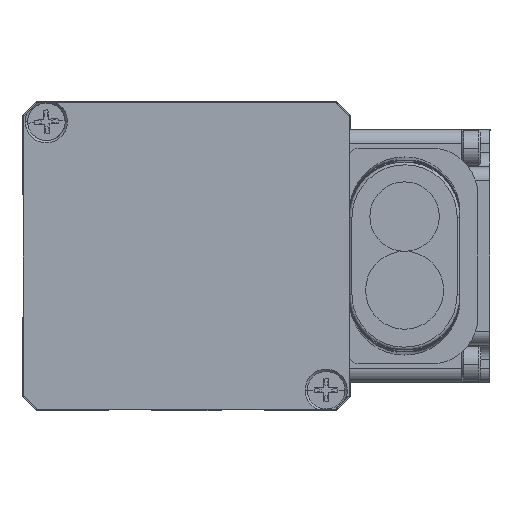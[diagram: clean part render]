
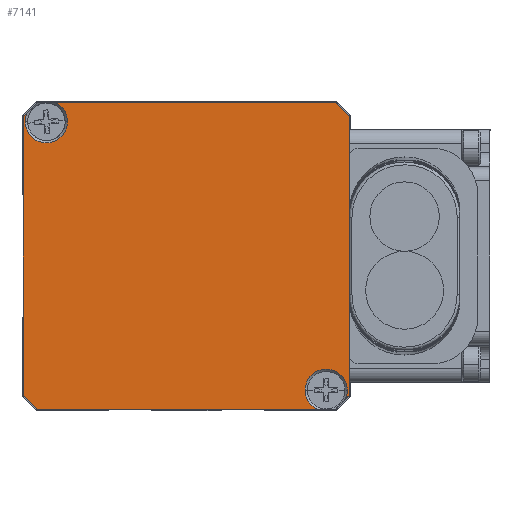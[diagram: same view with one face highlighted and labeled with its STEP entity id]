
A CAD part, front view. The second image highlights one B-rep face of the part: STEP entity #7141.
In plain terms, the highlighted planar face has unit normal (0, -1, 0).
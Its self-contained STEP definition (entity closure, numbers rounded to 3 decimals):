
#1972 = EDGE_CURVE ( 'NONE', #11441, #24627, #32165, .T. ) ;
#2030 = CARTESIAN_POINT ( 'NONE',  ( -17.35, -35.5, -15.35 ) ) ;
#2121 = AXIS2_PLACEMENT_3D ( 'NONE', #2710, #19190, #13918 ) ;
#2215 = ORIENTED_EDGE ( 'NONE', *, *, #25915, .F. ) ;
#2710 = CARTESIAN_POINT ( 'NONE',  ( 14.9, -35.5, -13.3 ) ) ;
#2988 = EDGE_CURVE ( 'NONE', #13305, #24627, #16247, .T. ) ;
#3031 = CIRCLE ( 'NONE', #32266, 2.25 ) ;
#3543 = DIRECTION ( 'NONE',  ( 0., 0., 1. ) ) ;
#3567 = VERTEX_POINT ( 'NONE', #28497 ) ;
#4645 = ORIENTED_EDGE ( 'NONE', *, *, #32113, .F. ) ;
#5013 = VECTOR ( 'NONE', #9031, 1000. ) ;
#5171 = EDGE_CURVE ( 'NONE', #13305, #12235, #21630, .T. ) ;
#5665 = VERTEX_POINT ( 'NONE', #10525 ) ;
#5729 = EDGE_CURVE ( 'NONE', #9697, #5886, #21388, .T. ) ;
#5886 = VERTEX_POINT ( 'NONE', #25568 ) ;
#5929 = DIRECTION ( 'NONE',  ( -0.707, 0., 0.707 ) ) ;
#6125 = CARTESIAN_POINT ( 'NONE',  ( 17.35, -35.5, 15.85 ) ) ;
#6504 = ORIENTED_EDGE ( 'NONE', *, *, #12384, .F. ) ;
#6677 = EDGE_LOOP ( 'NONE', ( #13258, #27582, #34873, #16422, #20968, #18273, #18959, #8523, #4645, #9501, #6504, #36692, #2215, #14037 ) ) ;
#7100 = CARTESIAN_POINT ( 'NONE',  ( 0., -35.5, 1. ) ) ;
#7141 = ADVANCED_FACE ( 'NONE', ( #21301 ), #7294, .F. ) ;
#7199 = DIRECTION ( 'NONE',  ( 0.707, 0., 0.707 ) ) ;
#7294 = PLANE ( 'NONE',  #16660 ) ;
#7473 = DIRECTION ( 'NONE',  ( 0., 1., 0. ) ) ;
#7709 = VECTOR ( 'NONE', #29740, 1000. ) ;
#8083 = VECTOR ( 'NONE', #19031, 1000. ) ;
#8523 = ORIENTED_EDGE ( 'NONE', *, *, #14925, .F. ) ;
#8994 = DIRECTION ( 'NONE',  ( -1., 0., 0. ) ) ;
#9031 = DIRECTION ( 'NONE',  ( -1., 0., 0. ) ) ;
#9190 = CARTESIAN_POINT ( 'NONE',  ( -14.9, -35.5, 15.3 ) ) ;
#9501 = ORIENTED_EDGE ( 'NONE', *, *, #12912, .F. ) ;
#9697 = VERTEX_POINT ( 'NONE', #28368 ) ;
#10399 = CIRCLE ( 'NONE', #36720, 2.25 ) ;
#10525 = CARTESIAN_POINT ( 'NONE',  ( 12.65, -35.5, -13.3 ) ) ;
#11069 = DIRECTION ( 'NONE',  ( 0., -1., 0. ) ) ;
#11441 = VERTEX_POINT ( 'NONE', #25077 ) ;
#11930 = LINE ( 'NONE', #20554, #26278 ) ;
#11971 = CARTESIAN_POINT ( 'NONE',  ( -17.35, -35.5, -13.85 ) ) ;
#12235 = VERTEX_POINT ( 'NONE', #16072 ) ;
#12384 = EDGE_CURVE ( 'NONE', #9697, #33905, #10399, .T. ) ;
#12803 = AXIS2_PLACEMENT_3D ( 'NONE', #9190, #17796, #19891 ) ;
#12912 = EDGE_CURVE ( 'NONE', #33905, #5665, #36147, .T. ) ;
#13030 = DIRECTION ( 'NONE',  ( -0.707, 0., -0.707 ) ) ;
#13258 = ORIENTED_EDGE ( 'NONE', *, *, #33484, .F. ) ;
#13305 = VERTEX_POINT ( 'NONE', #11971 ) ;
#13687 = VERTEX_POINT ( 'NONE', #31154 ) ;
#13918 = DIRECTION ( 'NONE',  ( -1., 0., 0. ) ) ;
#14007 = CARTESIAN_POINT ( 'NONE',  ( 14.9, -35.5, -13.3 ) ) ;
#14037 = ORIENTED_EDGE ( 'NONE', *, *, #27148, .T. ) ;
#14925 = EDGE_CURVE ( 'NONE', #3567, #12235, #17628, .T. ) ;
#14957 = CARTESIAN_POINT ( 'NONE',  ( 14.9, -35.5, -13.3 ) ) ;
#15339 = CARTESIAN_POINT ( 'NONE',  ( -17.35, -35.5, 17.35 ) ) ;
#15506 = AXIS2_PLACEMENT_3D ( 'NONE', #31507, #11069, #22513 ) ;
#16072 = CARTESIAN_POINT ( 'NONE',  ( -15.85, -35.5, -15.35 ) ) ;
#16247 = LINE ( 'NONE', #2030, #29695 ) ;
#16422 = ORIENTED_EDGE ( 'NONE', *, *, #29734, .F. ) ;
#16660 = AXIS2_PLACEMENT_3D ( 'NONE', #7100, #7473, #30293 ) ;
#17628 = LINE ( 'NONE', #20439, #5013 ) ;
#17796 = DIRECTION ( 'NONE',  ( 0., -1., 0. ) ) ;
#18090 = VECTOR ( 'NONE', #13030, 1000. ) ;
#18273 = ORIENTED_EDGE ( 'NONE', *, *, #2988, .F. ) ;
#18316 = DIRECTION ( 'NONE',  ( 0., -1., 0. ) ) ;
#18846 = CIRCLE ( 'NONE', #12803, 2.25 ) ;
#18959 = ORIENTED_EDGE ( 'NONE', *, *, #5171, .T. ) ;
#19031 = DIRECTION ( 'NONE',  ( 0.707, 0., -0.707 ) ) ;
#19190 = DIRECTION ( 'NONE',  ( 0., -1., 0. ) ) ;
#19891 = DIRECTION ( 'NONE',  ( -1., 0., 0. ) ) ;
#20439 = CARTESIAN_POINT ( 'NONE',  ( -17.35, -35.5, -15.35 ) ) ;
#20554 = CARTESIAN_POINT ( 'NONE',  ( 17.35, -35.5, -15.35 ) ) ;
#20968 = ORIENTED_EDGE ( 'NONE', *, *, #1972, .T. ) ;
#21116 = CARTESIAN_POINT ( 'NONE',  ( -14.9, -35.5, 15.3 ) ) ;
#21301 = FACE_OUTER_BOUND ( 'NONE', #6677, .T. ) ;
#21388 = LINE ( 'NONE', #32817, #31350 ) ;
#21630 = LINE ( 'NONE', #36177, #8083 ) ;
#21978 = CIRCLE ( 'NONE', #36290, 2.25 ) ;
#22350 = VERTEX_POINT ( 'NONE', #28574 ) ;
#22414 = CARTESIAN_POINT ( 'NONE',  ( 17.15, -35.5, -13.3 ) ) ;
#22513 = DIRECTION ( 'NONE',  ( -1., 0., 0. ) ) ;
#23090 = EDGE_CURVE ( 'NONE', #31251, #27452, #32828, .T. ) ;
#24627 = VERTEX_POINT ( 'NONE', #35393 ) ;
#25077 = CARTESIAN_POINT ( 'NONE',  ( -16.93, -35.5, 16.27 ) ) ;
#25539 = LINE ( 'NONE', #6125, #29391 ) ;
#25568 = CARTESIAN_POINT ( 'NONE',  ( 17.35, -35.5, -13.85 ) ) ;
#25915 = EDGE_CURVE ( 'NONE', #33250, #5886, #11930, .T. ) ;
#26278 = VECTOR ( 'NONE', #34591, 1000. ) ;
#26555 = DIRECTION ( 'NONE',  ( -1., 0., 0. ) ) ;
#27148 = EDGE_CURVE ( 'NONE', #33250, #22350, #25539, .T. ) ;
#27358 = CARTESIAN_POINT ( 'NONE',  ( -13.973, -35.5, 17.35 ) ) ;
#27452 = VERTEX_POINT ( 'NONE', #27358 ) ;
#27582 = ORIENTED_EDGE ( 'NONE', *, *, #23090, .F. ) ;
#28368 = CARTESIAN_POINT ( 'NONE',  ( 16.93, -35.5, -14.27 ) ) ;
#28497 = CARTESIAN_POINT ( 'NONE',  ( 13.973, -35.5, -15.35 ) ) ;
#28574 = CARTESIAN_POINT ( 'NONE',  ( 15.85, -35.5, 17.35 ) ) ;
#28786 = DIRECTION ( 'NONE',  ( 0., -1., 0. ) ) ;
#29185 = DIRECTION ( 'NONE',  ( 0., -1., 0. ) ) ;
#29391 = VECTOR ( 'NONE', #5929, 1000. ) ;
#29520 = DIRECTION ( 'NONE',  ( -1., 0., 0. ) ) ;
#29695 = VECTOR ( 'NONE', #3543, 1000. ) ;
#29727 = CARTESIAN_POINT ( 'NONE',  ( -15.85, -35.5, 17.35 ) ) ;
#29734 = EDGE_CURVE ( 'NONE', #11441, #13687, #18846, .T. ) ;
#29740 = DIRECTION ( 'NONE',  ( 1., 0., 0. ) ) ;
#30293 = DIRECTION ( 'NONE',  ( 1., 0., 0. ) ) ;
#30606 = CARTESIAN_POINT ( 'NONE',  ( -12.65, -35.5, 15.3 ) ) ;
#31154 = CARTESIAN_POINT ( 'NONE',  ( -17.15, -35.5, 15.3 ) ) ;
#31251 = VERTEX_POINT ( 'NONE', #30606 ) ;
#31350 = VECTOR ( 'NONE', #7199, 1000. ) ;
#31507 = CARTESIAN_POINT ( 'NONE',  ( -14.9, -35.5, 15.3 ) ) ;
#32091 = CARTESIAN_POINT ( 'NONE',  ( 17.35, -35.5, 15.85 ) ) ;
#32113 = EDGE_CURVE ( 'NONE', #5665, #3567, #21978, .T. ) ;
#32165 = LINE ( 'NONE', #29727, #18090 ) ;
#32266 = AXIS2_PLACEMENT_3D ( 'NONE', #21116, #18316, #26555 ) ;
#32788 = EDGE_CURVE ( 'NONE', #13687, #31251, #3031, .T. ) ;
#32817 = CARTESIAN_POINT ( 'NONE',  ( 15.85, -35.5, -15.35 ) ) ;
#32828 = CIRCLE ( 'NONE', #15506, 2.25 ) ;
#33250 = VERTEX_POINT ( 'NONE', #32091 ) ;
#33484 = EDGE_CURVE ( 'NONE', #27452, #22350, #34800, .T. ) ;
#33905 = VERTEX_POINT ( 'NONE', #22414 ) ;
#34591 = DIRECTION ( 'NONE',  ( 0., 0., -1. ) ) ;
#34800 = LINE ( 'NONE', #15339, #7709 ) ;
#34873 = ORIENTED_EDGE ( 'NONE', *, *, #32788, .F. ) ;
#35393 = CARTESIAN_POINT ( 'NONE',  ( -17.35, -35.5, 15.85 ) ) ;
#36147 = CIRCLE ( 'NONE', #2121, 2.25 ) ;
#36177 = CARTESIAN_POINT ( 'NONE',  ( -17.35, -35.5, -13.85 ) ) ;
#36290 = AXIS2_PLACEMENT_3D ( 'NONE', #14957, #29185, #8994 ) ;
#36692 = ORIENTED_EDGE ( 'NONE', *, *, #5729, .T. ) ;
#36720 = AXIS2_PLACEMENT_3D ( 'NONE', #14007, #28786, #29520 ) ;
